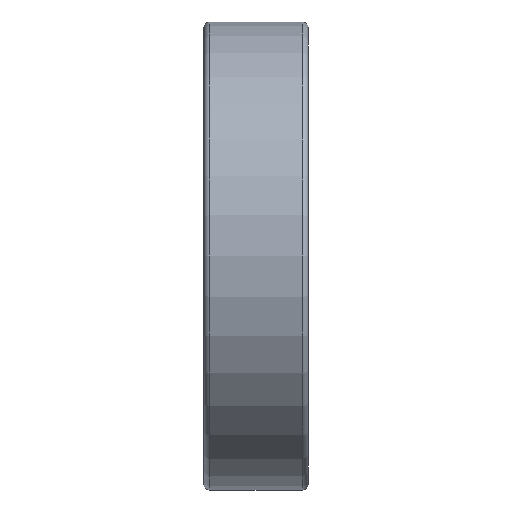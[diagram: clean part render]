
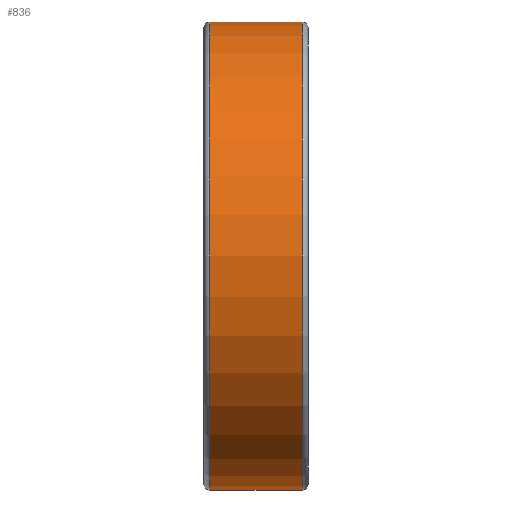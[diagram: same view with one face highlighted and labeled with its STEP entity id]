
A CAD part, front view. The second image highlights one B-rep face of the part: STEP entity #836.
In plain terms, the highlighted cylindrical face has radius 42.5 mm (diameter 85 mm), a full revolution.
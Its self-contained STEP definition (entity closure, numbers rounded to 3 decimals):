
#46=LINE('',#1607,#52);
#52=VECTOR('',#1310,42.5);
#58=CYLINDRICAL_SURFACE('',#1013,42.5);
#140=FACE_OUTER_BOUND('',#208,.T.);
#208=EDGE_LOOP('',(#746,#747,#748,#749,#750,#751));
#314=CIRCLE('',#1008,42.5);
#315=CIRCLE('',#1009,42.5);
#318=CIRCLE('',#1014,42.5);
#319=CIRCLE('',#1015,42.5);
#440=VERTEX_POINT('',#1595);
#441=VERTEX_POINT('',#1596);
#443=VERTEX_POINT('',#1604);
#444=VERTEX_POINT('',#1605);
#545=EDGE_CURVE('',#440,#441,#314,.T.);
#546=EDGE_CURVE('',#441,#440,#315,.T.);
#549=EDGE_CURVE('',#443,#444,#318,.T.);
#550=EDGE_CURVE('',#443,#441,#46,.T.);
#551=EDGE_CURVE('',#444,#443,#319,.T.);
#746=ORIENTED_EDGE('',*,*,#549,.F.);
#747=ORIENTED_EDGE('',*,*,#550,.T.);
#748=ORIENTED_EDGE('',*,*,#545,.F.);
#749=ORIENTED_EDGE('',*,*,#546,.F.);
#750=ORIENTED_EDGE('',*,*,#550,.F.);
#751=ORIENTED_EDGE('',*,*,#551,.F.);
#836=ADVANCED_FACE('',(#140),#58,.T.);
#1008=AXIS2_PLACEMENT_3D('',#1597,#1296,#1297);
#1009=AXIS2_PLACEMENT_3D('',#1598,#1298,#1299);
#1013=AXIS2_PLACEMENT_3D('',#1603,#1306,#1307);
#1014=AXIS2_PLACEMENT_3D('',#1606,#1308,#1309);
#1015=AXIS2_PLACEMENT_3D('',#1608,#1311,#1312);
#1296=DIRECTION('center_axis',(-1.,0.,0.));
#1297=DIRECTION('ref_axis',(0.,-1.,0.));
#1298=DIRECTION('center_axis',(-1.,0.,0.));
#1299=DIRECTION('ref_axis',(0.,-1.,0.));
#1306=DIRECTION('center_axis',(1.,0.,0.));
#1307=DIRECTION('ref_axis',(0.,1.,0.));
#1308=DIRECTION('center_axis',(1.,0.,0.));
#1309=DIRECTION('ref_axis',(0.,-1.,0.));
#1310=DIRECTION('',(-1.,0.,0.));
#1311=DIRECTION('center_axis',(1.,0.,0.));
#1312=DIRECTION('ref_axis',(0.,-1.,0.));
#1595=CARTESIAN_POINT('',(1.1,0.,42.5));
#1596=CARTESIAN_POINT('',(1.1,-42.5,0.));
#1597=CARTESIAN_POINT('Origin',(1.1,0.,0.));
#1598=CARTESIAN_POINT('Origin',(1.1,0.,0.));
#1603=CARTESIAN_POINT('Origin',(9.5,0.,0.));
#1604=CARTESIAN_POINT('',(17.9,-42.5,0.));
#1605=CARTESIAN_POINT('',(17.9,0.,42.5));
#1606=CARTESIAN_POINT('Origin',(17.9,0.,0.));
#1607=CARTESIAN_POINT('',(9.5,-42.5,0.));
#1608=CARTESIAN_POINT('Origin',(17.9,0.,0.));
